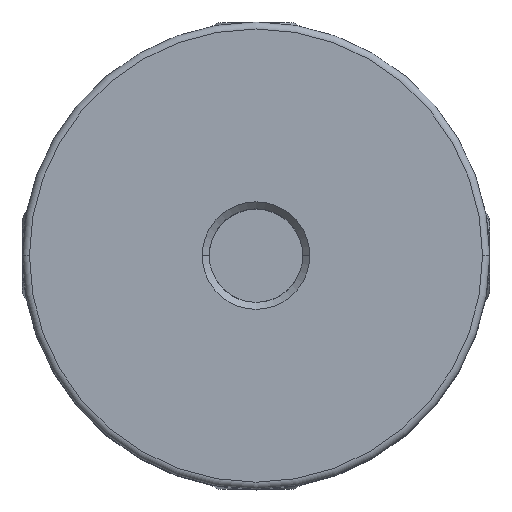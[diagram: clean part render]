
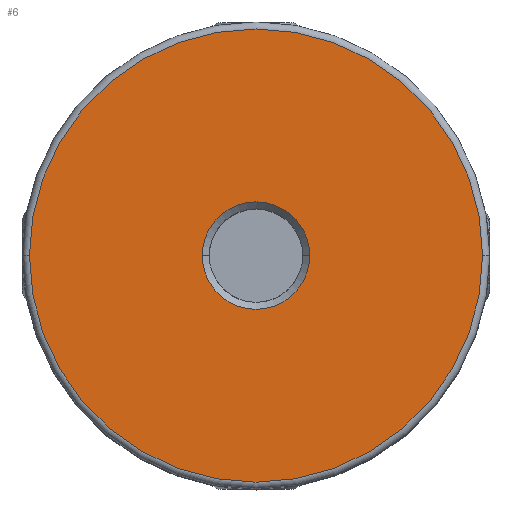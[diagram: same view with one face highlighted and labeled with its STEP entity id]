
A CAD part, top view. The second image highlights one B-rep face of the part: STEP entity #6.
In plain terms, the highlighted planar face has unit normal (0, 0, 1).
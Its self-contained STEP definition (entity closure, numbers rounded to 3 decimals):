
#6 = ADVANCED_FACE ( 'NONE', ( #1364, #1368 ), #2000, .F. ) ;
#104 = AXIS2_PLACEMENT_3D ( 'NONE', #294, #295, #296 ) ;
#107 = AXIS2_PLACEMENT_3D ( 'NONE', #305, #306, #307 ) ;
#294 = CARTESIAN_POINT ( 'NONE',  ( 0., 0., 9.95 ) ) ;
#295 = DIRECTION ( 'NONE',  ( 0., 0., 1. ) ) ;
#296 = DIRECTION ( 'NONE',  ( -1., 0., 0. ) ) ;
#305 = CARTESIAN_POINT ( 'NONE',  ( 0., 0., 9.95 ) ) ;
#306 = DIRECTION ( 'NONE',  ( 0., 0., -1. ) ) ;
#307 = DIRECTION ( 'NONE',  ( 0., 1., 0. ) ) ;
#923 = CARTESIAN_POINT ( 'NONE',  ( -2.3, 0., 9.95 ) ) ;
#924 = CARTESIAN_POINT ( 'NONE',  ( 2.3, 0., 9.95 ) ) ;
#981 = CARTESIAN_POINT ( 'NONE',  ( 9.7, 0., 9.95 ) ) ;
#1364 = FACE_BOUND ( 'NONE', #2363, .T. ) ;
#1368 = FACE_OUTER_BOUND ( 'NONE', #2394, .T. ) ;
#1924 = DIRECTION ( 'NONE',  ( -1., 0., 0. ) ) ;
#1996 = DIRECTION ( 'NONE',  ( 0., 0., -1. ) ) ;
#1998 = CARTESIAN_POINT ( 'NONE',  ( 0., 0., 9.95 ) ) ;
#2000 = PLANE ( 'NONE',  #2105 ) ;
#2105 = AXIS2_PLACEMENT_3D ( 'NONE', #1998, #1996, #1924 ) ;
#2363 = EDGE_LOOP ( 'NONE', ( #4195, #4196 ) ) ;
#2394 = EDGE_LOOP ( 'NONE', ( #4222, #4223 ) ) ;
#2996 = CARTESIAN_POINT ( 'NONE',  ( -9.7, 0., 9.95 ) ) ;
#3208 = VERTEX_POINT ( 'NONE', #923 ) ;
#3209 = VERTEX_POINT ( 'NONE', #924 ) ;
#3266 = VERTEX_POINT ( 'NONE', #981 ) ;
#3507 = AXIS2_PLACEMENT_3D ( 'NONE', #5247, #5248, #5249 ) ;
#3517 = AXIS2_PLACEMENT_3D ( 'NONE', #5143, #5144, #5145 ) ;
#3569 = CIRCLE ( 'NONE', #3517, 2.3 ) ;
#3616 = CIRCLE ( 'NONE', #3507, 9.7 ) ;
#3740 = CIRCLE ( 'NONE', #104, 9.7 ) ;
#3753 = CIRCLE ( 'NONE', #107, 2.3 ) ;
#4058 = EDGE_CURVE ( 'NONE', #3208, #3209, #3569, .T. ) ;
#4094 = EDGE_CURVE ( 'NONE', #4448, #3266, #3616, .T. ) ;
#4195 = ORIENTED_EDGE ( 'NONE', *, *, #5056, .T. ) ;
#4196 = ORIENTED_EDGE ( 'NONE', *, *, #4058, .T. ) ;
#4222 = ORIENTED_EDGE ( 'NONE', *, *, #4094, .T. ) ;
#4223 = ORIENTED_EDGE ( 'NONE', *, *, #5051, .T. ) ;
#4448 = VERTEX_POINT ( 'NONE', #2996 ) ;
#5051 = EDGE_CURVE ( 'NONE', #3266, #4448, #3740, .T. ) ;
#5056 = EDGE_CURVE ( 'NONE', #3209, #3208, #3753, .T. ) ;
#5143 = CARTESIAN_POINT ( 'NONE',  ( 0., 0., 9.95 ) ) ;
#5144 = DIRECTION ( 'NONE',  ( 0., 0., -1. ) ) ;
#5145 = DIRECTION ( 'NONE',  ( 0., 1., 0. ) ) ;
#5247 = CARTESIAN_POINT ( 'NONE',  ( 0., 0., 9.95 ) ) ;
#5248 = DIRECTION ( 'NONE',  ( 0., 0., 1. ) ) ;
#5249 = DIRECTION ( 'NONE',  ( -1., 0., 0. ) ) ;
